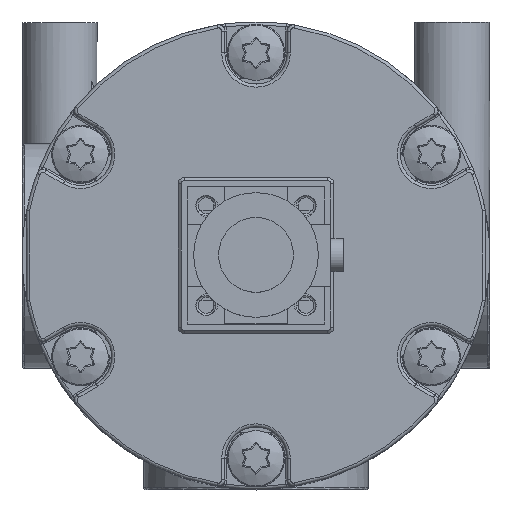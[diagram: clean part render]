
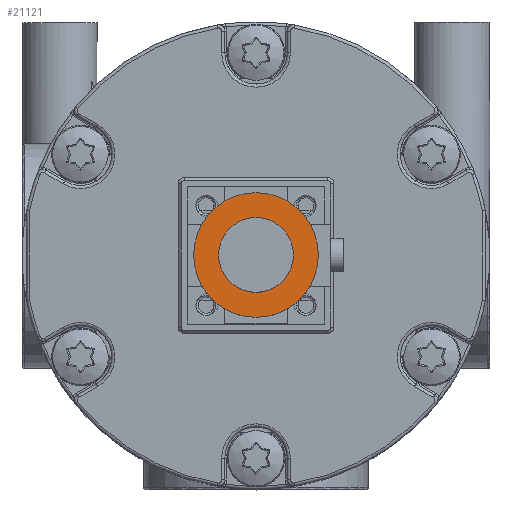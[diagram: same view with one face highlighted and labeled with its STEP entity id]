
A CAD part, top view. The second image highlights one B-rep face of the part: STEP entity #21121.
In plain terms, the highlighted planar face has unit normal (0, 0, 1).
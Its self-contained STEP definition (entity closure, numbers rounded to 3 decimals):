
#145=FACE_BOUND('',#4829,.T.);
#2964=PLANE('',#22657);
#3488=FACE_OUTER_BOUND('',#4828,.T.);
#4828=EDGE_LOOP('',(#13693,#13694));
#4829=EDGE_LOOP('',(#13695,#13696));
#6811=CIRCLE('',#22655,10.);
#6812=CIRCLE('',#22656,10.);
#6813=CIRCLE('',#22658,6.);
#6814=CIRCLE('',#22659,6.);
#8466=VERTEX_POINT('',#33841);
#8467=VERTEX_POINT('',#33842);
#8468=VERTEX_POINT('',#33847);
#8469=VERTEX_POINT('',#33848);
#10447=EDGE_CURVE('',#8466,#8467,#6811,.T.);
#10448=EDGE_CURVE('',#8467,#8466,#6812,.T.);
#10450=EDGE_CURVE('',#8468,#8469,#6813,.T.);
#10451=EDGE_CURVE('',#8469,#8468,#6814,.T.);
#13693=ORIENTED_EDGE('',*,*,#10447,.T.);
#13694=ORIENTED_EDGE('',*,*,#10448,.T.);
#13695=ORIENTED_EDGE('',*,*,#10450,.F.);
#13696=ORIENTED_EDGE('',*,*,#10451,.F.);
#21121=ADVANCED_FACE('',(#3488,#145),#2964,.T.);
#22655=AXIS2_PLACEMENT_3D('',#33843,#25735,#25736);
#22656=AXIS2_PLACEMENT_3D('',#33844,#25737,#25738);
#22657=AXIS2_PLACEMENT_3D('',#33846,#25740,#25741);
#22658=AXIS2_PLACEMENT_3D('',#33849,#25742,#25743);
#22659=AXIS2_PLACEMENT_3D('',#33850,#25744,#25745);
#25735=DIRECTION('center_axis',(0.,0.,
1.));
#25736=DIRECTION('ref_axis',(0.,1.,0.));
#25737=DIRECTION('center_axis',(0.,0.,
1.));
#25738=DIRECTION('ref_axis',(0.,1.,0.));
#25740=DIRECTION('center_axis',(0.,0.,
1.));
#25741=DIRECTION('ref_axis',(0.,1.,0.));
#25742=DIRECTION('center_axis',(0.,0.,
1.));
#25743=DIRECTION('ref_axis',(0.,1.,0.));
#25744=DIRECTION('center_axis',(0.,0.,
1.));
#25745=DIRECTION('ref_axis',(0.,1.,0.));
#33841=CARTESIAN_POINT('',(0.,10.,106.8));
#33842=CARTESIAN_POINT('',(0.,-10.,106.8));
#33843=CARTESIAN_POINT('Origin',(0.,0.,
106.8));
#33844=CARTESIAN_POINT('Origin',(0.,0.,
106.8));
#33846=CARTESIAN_POINT('Origin',(0.,8.,106.8));
#33847=CARTESIAN_POINT('',(0.,6.,106.8));
#33848=CARTESIAN_POINT('',(0.,-6.,106.8));
#33849=CARTESIAN_POINT('Origin',(0.,0.,
106.8));
#33850=CARTESIAN_POINT('Origin',(0.,0.,
106.8));
